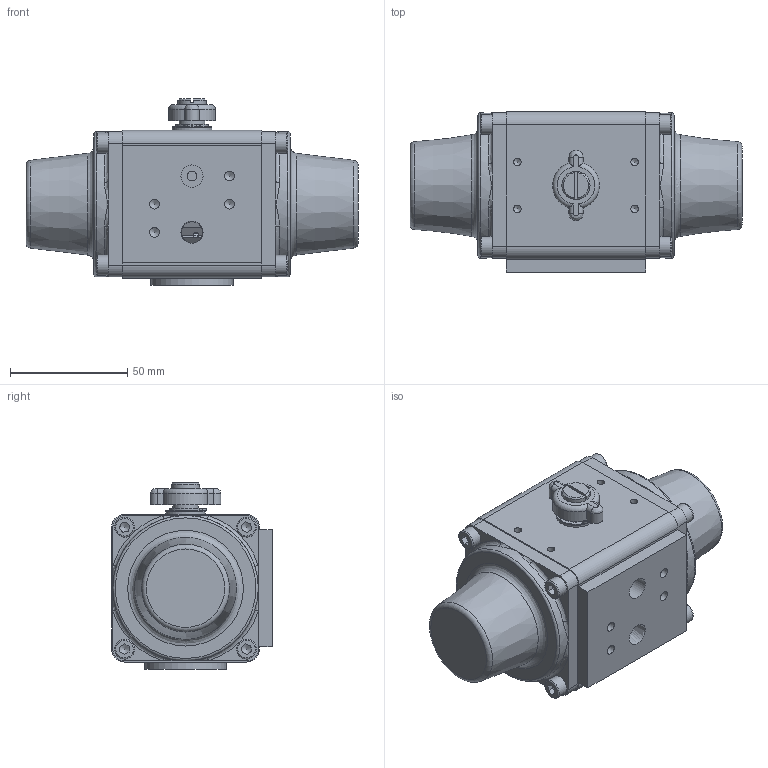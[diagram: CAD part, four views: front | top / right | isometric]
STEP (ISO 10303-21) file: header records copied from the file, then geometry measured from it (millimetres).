
FILE_DESCRIPTION((''),'2;1');
FILE_NAME('C:\Dokumente und Einstellungen\ko-p\Desktop\ENG-037574_Konturvereinfachung_1.stp','2010-11-25T10:00:53',('war'),(''),'Autodesk Inventor 2010','Autodesk Inventor 2010','');
FILE_SCHEMA(('AUTOMOTIVE_DESIGN { 1 0 10303 214 1 1 1 1 }'));
Length unit declared in the file: millimetre
Products named in the file (1): ENG-037574_Konturvereinfachung_1
Bounding box: 141.6 x 68.5 x 79.4 mm (x, y, z)
Surface area: 55545.2 mm2 (no closed solid volume)
Topology: 0 solids, 22 shells, 251 faces, 799 edges, 549 vertices
Faces by surface type: plane 124, bspline 52, cylinder 47, cone 14, torus 14
Full cylindrical faces by diameter (mm): 3.242 x2, 8.5 x8, 11 x1, 12 x1, 17 x2, 20 x1, 35 x1, 45.9 x1, 46 x1, 62 x2
Entity records: 9738 total; most frequent: CARTESIAN_POINT 3214, DIRECTION 1228, ORIENTED_EDGE 1088, EDGE_CURVE 675, VERTEX_POINT 511, AXIS2_PLACEMENT_3D 437, VECTOR 354, LINE 354
